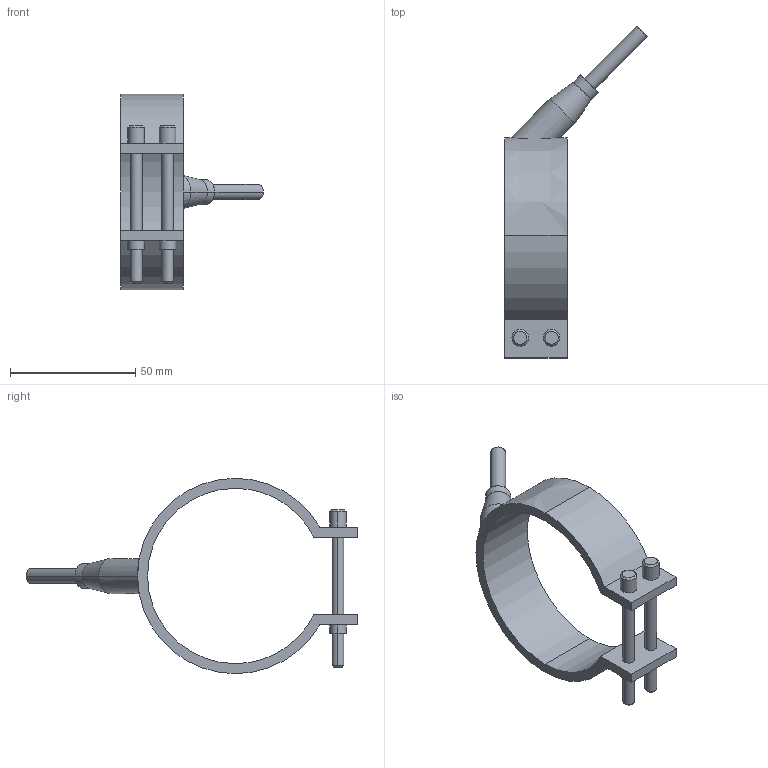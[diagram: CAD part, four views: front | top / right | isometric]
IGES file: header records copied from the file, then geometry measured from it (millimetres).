
Start section: START RECORD GO HERE.
Global section: file name: 29070025.igs; native system: DASSAULT SYSTEMES CATIA V5 R20 - www.3ds.com; preprocessor: CATIA Version 5 Release 20 ; author: Utente; organization: NB04-ASUS; date: 20210327.104510; units: millimetre
Bounding box: 57.05 x 132.55 x 78 mm (x, y, z)
Surface area: 16775.7 mm2 (no closed solid volume)
Topology: 0 solids, 0 shells, 54 faces, 252 edges, 252 vertices
Faces by surface type: revolution 38, plane 16
